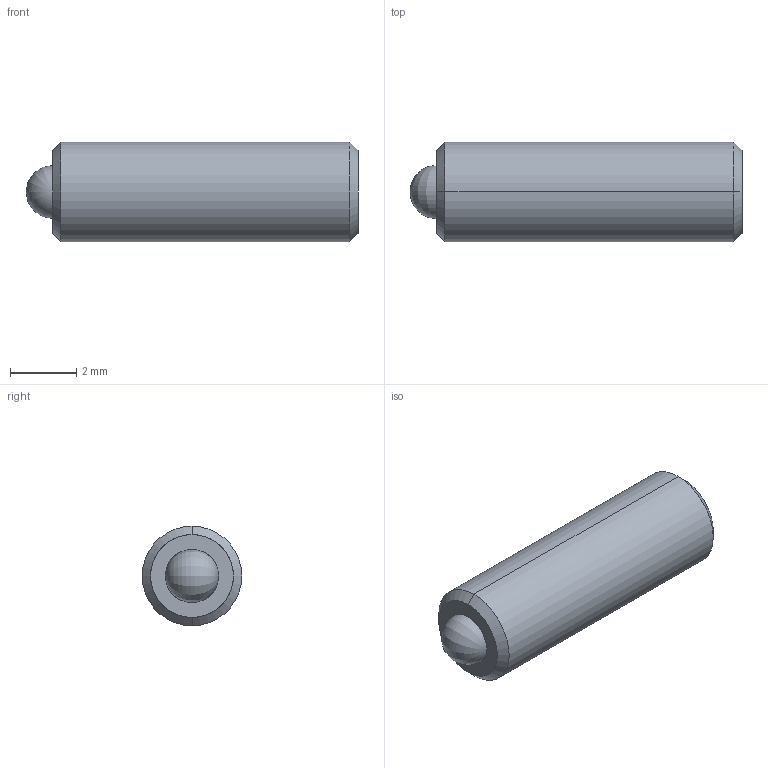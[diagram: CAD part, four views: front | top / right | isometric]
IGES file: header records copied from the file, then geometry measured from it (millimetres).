
Start section: SolidWorks IGES file using analytic representation for surfaces
Global section: file name: C:\Users\workpc\Desktop\KMA Solidworks\TS3-20 Series\TS3-20-10.IGS; native system: SolidWorks 2013; preprocessor: SolidWorks 2013; author: workpc; date: 130213.111946; units: millimetre
Bounding box: 10 x 3 x 3 mm (x, y, z)
Surface area: 120.3 mm2 (no closed solid volume)
Topology: 0 solids, 0 shells, 20 faces, 172 edges, 168 vertices
Faces by surface type: revolution 10, bspline 10
